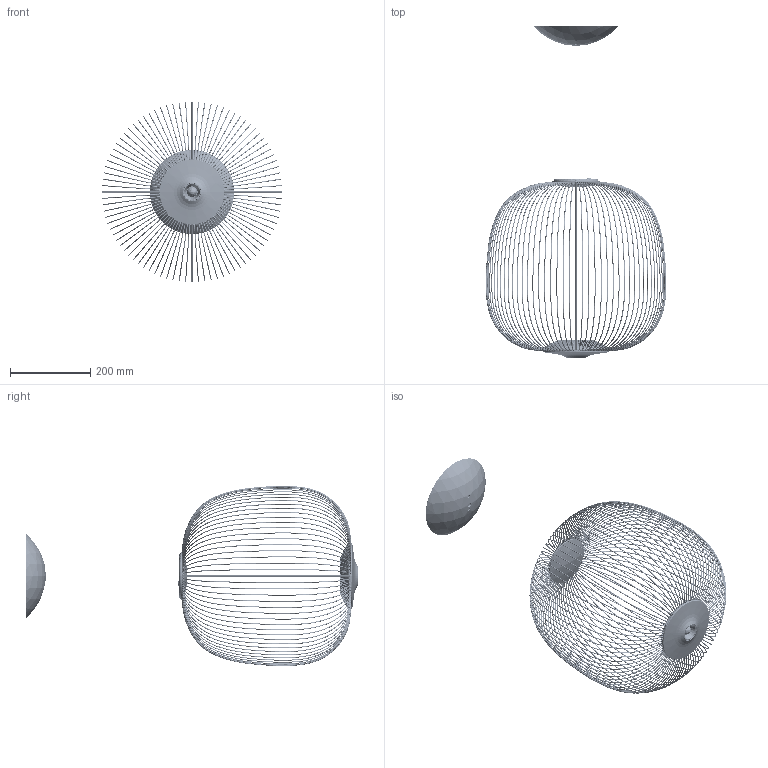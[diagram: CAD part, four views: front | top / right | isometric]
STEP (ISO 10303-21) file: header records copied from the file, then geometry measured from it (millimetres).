
FILE_DESCRIPTION (( 'STEP AP203' ), '1' );
FILE_NAME ('264_2-MIDI_S_LD_3D.STEP', '2021-03-30T09:48:39', ( '' ), ( '' ), 'SwSTEP 2.0', 'SolidWorks 2021', '' );
FILE_SCHEMA (( 'CONFIG_CONTROL_DESIGN' ));
Length unit declared in the file: millimetre
Products named in the file (1): 264_2-MIDI_S_LD_3D
Bounding box: 450.19 x 826.33 x 449.04 mm (x, y, z)
Volume: 833324.1 mm3; surface area: 799649.1 mm2
Topology: 124 solids, 124 shells, 6446 faces, 15417 edges, 9236 vertices
Faces by surface type: torus 2005, plane 1631, cylinder 1125, bspline 964, cone 588, sphere 133
Entity records: 235326 total; most frequent: CARTESIAN_POINT 94108, ORIENTED_EDGE 30616, DIRECTION 29379, EDGE_CURVE 15308, AXIS2_PLACEMENT_3D 13032, VERTEX_POINT 9230, CIRCLE 7549, EDGE_LOOP 6656
